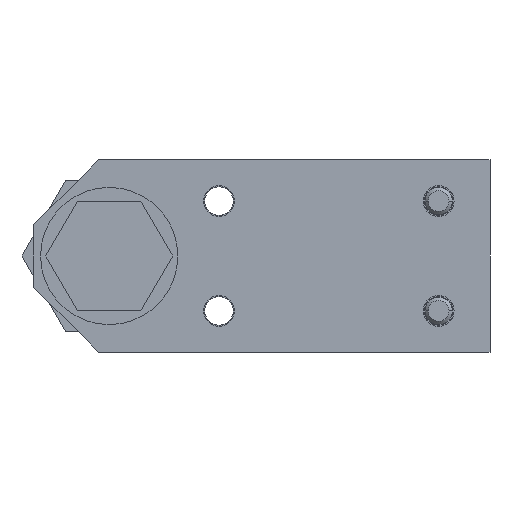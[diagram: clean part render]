
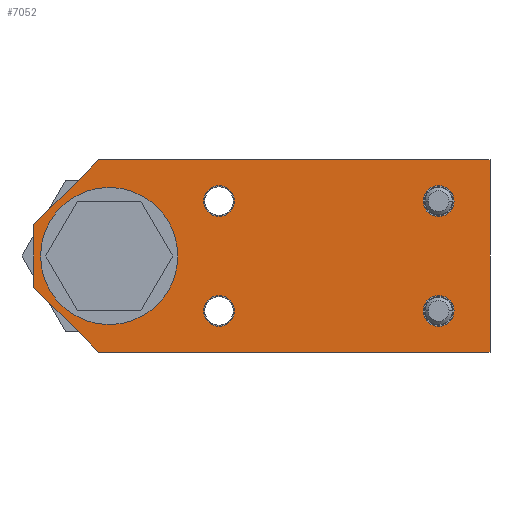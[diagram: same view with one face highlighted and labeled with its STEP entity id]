
A CAD part, left-side view. The second image highlights one B-rep face of the part: STEP entity #7052.
In plain terms, the highlighted planar face has unit normal (-1, 0, 0).
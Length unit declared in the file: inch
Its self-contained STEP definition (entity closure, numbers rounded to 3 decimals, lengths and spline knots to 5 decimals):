
#6649=DIRECTION('',(0.,0.,1.));
#6650=VECTOR('',#6649,0.56954);
#6651=CARTESIAN_POINT('',(-3.6925,0.6875,-0.28477));
#6652=LINE('',#6651,#6650);
#6727=DIRECTION('',(0.,1.,0.));
#6728=VECTOR('',#6727,3.56477);
#6729=CARTESIAN_POINT('',(-3.6925,-3.4675,-0.875));
#6730=LINE('',#6729,#6728);
#6731=DIRECTION('',(0.,-0.707,-0.707));
#6732=VECTOR('',#6731,0.83471);
#6733=CARTESIAN_POINT('',(-3.6925,0.6875,-0.28477));
#6734=LINE('',#6733,#6732);
#6735=DIRECTION('',(0.,0.707,-0.707));
#6736=VECTOR('',#6735,0.83471);
#6737=CARTESIAN_POINT('',(-3.6925,0.09727,0.875));
#6738=LINE('',#6737,#6736);
#6739=CARTESIAN_POINT('',(-3.6925,-1.,-0.5));
#6740=DIRECTION('',(1.,0.,0.));
#6741=DIRECTION('',(0.,-1.,0.));
#6742=AXIS2_PLACEMENT_3D('',#6739,#6740,#6741);
#6744=CARTESIAN_POINT('',(-3.6925,-1.,-0.5));
#6745=DIRECTION('',(1.,0.,0.));
#6746=DIRECTION('',(0.,1.,0.));
#6747=AXIS2_PLACEMENT_3D('',#6744,#6745,#6746);
#6749=CARTESIAN_POINT('',(-3.6925,-3.,-0.5));
#6750=DIRECTION('',(1.,0.,0.));
#6751=DIRECTION('',(0.,-1.,0.));
#6752=AXIS2_PLACEMENT_3D('',#6749,#6750,#6751);
#6754=CARTESIAN_POINT('',(-3.6925,-3.,-0.5));
#6755=DIRECTION('',(1.,0.,0.));
#6756=DIRECTION('',(0.,1.,0.));
#6757=AXIS2_PLACEMENT_3D('',#6754,#6755,#6756);
#6759=CARTESIAN_POINT('',(-3.6925,-3.,0.5));
#6760=DIRECTION('',(1.,0.,0.));
#6761=DIRECTION('',(0.,-1.,0.));
#6762=AXIS2_PLACEMENT_3D('',#6759,#6760,#6761);
#6764=CARTESIAN_POINT('',(-3.6925,-3.,0.5));
#6765=DIRECTION('',(1.,0.,0.));
#6766=DIRECTION('',(0.,1.,0.));
#6767=AXIS2_PLACEMENT_3D('',#6764,#6765,#6766);
#6769=CARTESIAN_POINT('',(-3.6925,-1.,0.5));
#6770=DIRECTION('',(1.,0.,0.));
#6771=DIRECTION('',(0.,-1.,0.));
#6772=AXIS2_PLACEMENT_3D('',#6769,#6770,#6771);
#6774=CARTESIAN_POINT('',(-3.6925,-1.,0.5));
#6775=DIRECTION('',(1.,0.,0.));
#6776=DIRECTION('',(0.,1.,0.));
#6777=AXIS2_PLACEMENT_3D('',#6774,#6775,#6776);
#6779=CARTESIAN_POINT('',(-3.6925,0.,0.));
#6780=DIRECTION('',(1.,0.,0.));
#6781=DIRECTION('',(0.,-1.,0.));
#6782=AXIS2_PLACEMENT_3D('',#6779,#6780,#6781);
#6784=CARTESIAN_POINT('',(-3.6925,0.,0.));
#6785=DIRECTION('',(1.,0.,0.));
#6786=DIRECTION('',(0.,1.,0.));
#6787=AXIS2_PLACEMENT_3D('',#6784,#6785,#6786);
#6797=DIRECTION('',(0.,-1.,0.));
#6798=VECTOR('',#6797,3.56477);
#6799=CARTESIAN_POINT('',(-3.6925,0.09727,0.875));
#6800=LINE('',#6799,#6798);
#6801=DIRECTION('',(0.,0.,-1.));
#6802=VECTOR('',#6801,1.75);
#6803=CARTESIAN_POINT('',(-3.6925,-3.4675,0.875));
#6804=LINE('',#6803,#6802);
#6849=CARTESIAN_POINT('',(-3.6925,0.6875,-0.28477));
#6851=VERTEX_POINT('',#6849);
#6855=CARTESIAN_POINT('',(-3.6925,0.09727,-0.875));
#6856=VERTEX_POINT('',#6855);
#6861=CARTESIAN_POINT('',(-3.6925,0.6875,0.28477));
#6862=VERTEX_POINT('',#6861);
#6867=CARTESIAN_POINT('',(-3.6925,-3.4675,-0.875));
#6868=VERTEX_POINT('',#6867);
#6869=CARTESIAN_POINT('',(-3.6925,0.09727,0.875));
#6870=VERTEX_POINT('',#6869);
#6871=CARTESIAN_POINT('',(-3.6925,-3.4675,0.875));
#6872=VERTEX_POINT('',#6871);
#6873=CARTESIAN_POINT('',(-3.6925,-0.85938,-0.5));
#6875=VERTEX_POINT('',#6873);
#6877=CARTESIAN_POINT('',(-3.6925,-1.14063,-0.5));
#6879=VERTEX_POINT('',#6877);
#6881=CARTESIAN_POINT('',(-3.6925,-2.85938,-0.5));
#6883=VERTEX_POINT('',#6881);
#6885=CARTESIAN_POINT('',(-3.6925,-3.14063,-0.5));
#6887=VERTEX_POINT('',#6885);
#6889=CARTESIAN_POINT('',(-3.6925,-2.85938,0.5));
#6891=VERTEX_POINT('',#6889);
#6893=CARTESIAN_POINT('',(-3.6925,-3.14063,0.5));
#6895=VERTEX_POINT('',#6893);
#6898=CARTESIAN_POINT('',(-3.6925,-0.625,0.));
#6900=VERTEX_POINT('',#6898);
#6902=CARTESIAN_POINT('',(-3.6925,0.625,0.));
#6904=VERTEX_POINT('',#6902);
#6905=CARTESIAN_POINT('',(-3.6925,-0.85938,0.5));
#6907=VERTEX_POINT('',#6905);
#6909=CARTESIAN_POINT('',(-3.6925,-1.14063,0.5));
#6911=VERTEX_POINT('',#6909);
#7006=CARTESIAN_POINT('',(-3.6925,-1.59673,0.));
#7007=DIRECTION('',(1.,0.,0.));
#7008=DIRECTION('',(0.,-1.,0.));
#7009=AXIS2_PLACEMENT_3D('',#7006,#7007,#7008);
#7010=PLANE('',#7009);
#7011=ORIENTED_EDGE('',*,*,#6920,.F.);
#7012=ORIENTED_EDGE('',*,*,#6939,.T.);
#7014=ORIENTED_EDGE('',*,*,#7013,.F.);
#7016=ORIENTED_EDGE('',*,*,#7015,.T.);
#7018=ORIENTED_EDGE('',*,*,#7017,.T.);
#7019=ORIENTED_EDGE('',*,*,#6998,.T.);
#7020=EDGE_LOOP('',(#7011,#7012,#7014,#7016,#7018,#7019));
#7021=FACE_OUTER_BOUND('',#7020,.F.);
#7023=ORIENTED_EDGE('',*,*,#7022,.F.);
#7025=ORIENTED_EDGE('',*,*,#7024,.F.);
#7026=EDGE_LOOP('',(#7023,#7025));
#7027=FACE_BOUND('',#7026,.F.);
#7029=ORIENTED_EDGE('',*,*,#7028,.F.);
#7031=ORIENTED_EDGE('',*,*,#7030,.F.);
#7032=EDGE_LOOP('',(#7029,#7031));
#7033=FACE_BOUND('',#7032,.F.);
#7035=ORIENTED_EDGE('',*,*,#7034,.F.);
#7037=ORIENTED_EDGE('',*,*,#7036,.F.);
#7038=EDGE_LOOP('',(#7035,#7037));
#7039=FACE_BOUND('',#7038,.F.);
#7041=ORIENTED_EDGE('',*,*,#7040,.F.);
#7043=ORIENTED_EDGE('',*,*,#7042,.F.);
#7044=EDGE_LOOP('',(#7041,#7043));
#7045=FACE_BOUND('',#7044,.F.);
#7047=ORIENTED_EDGE('',*,*,#7046,.F.);
#7049=ORIENTED_EDGE('',*,*,#7048,.F.);
#7050=EDGE_LOOP('',(#7047,#7049));
#7051=FACE_BOUND('',#7050,.F.);
#6743=CIRCLE('',#6742,0.14063);
#6748=CIRCLE('',#6747,0.14063);
#6753=CIRCLE('',#6752,0.14063);
#6758=CIRCLE('',#6757,0.14063);
#6763=CIRCLE('',#6762,0.14063);
#6768=CIRCLE('',#6767,0.14063);
#6773=CIRCLE('',#6772,0.14063);
#6778=CIRCLE('',#6777,0.14063);
#6783=CIRCLE('',#6782,0.625);
#6788=CIRCLE('',#6787,0.625);
#6920=EDGE_CURVE('',#6851,#6856,#6734,.T.);
#6939=EDGE_CURVE('',#6851,#6862,#6652,.T.);
#6998=EDGE_CURVE('',#6868,#6856,#6730,.T.);
#7013=EDGE_CURVE('',#6870,#6862,#6738,.T.);
#7015=EDGE_CURVE('',#6870,#6872,#6800,.T.);
#7017=EDGE_CURVE('',#6872,#6868,#6804,.T.);
#7022=EDGE_CURVE('',#6879,#6875,#6743,.T.);
#7024=EDGE_CURVE('',#6875,#6879,#6748,.T.);
#7028=EDGE_CURVE('',#6887,#6883,#6753,.T.);
#7030=EDGE_CURVE('',#6883,#6887,#6758,.T.);
#7034=EDGE_CURVE('',#6895,#6891,#6763,.T.);
#7036=EDGE_CURVE('',#6891,#6895,#6768,.T.);
#7040=EDGE_CURVE('',#6911,#6907,#6773,.T.);
#7042=EDGE_CURVE('',#6907,#6911,#6778,.T.);
#7046=EDGE_CURVE('',#6900,#6904,#6783,.T.);
#7048=EDGE_CURVE('',#6904,#6900,#6788,.T.);
#7052=ADVANCED_FACE('',(#7021,#7027,#7033,#7039,#7045,#7051),#7010,.F.);
